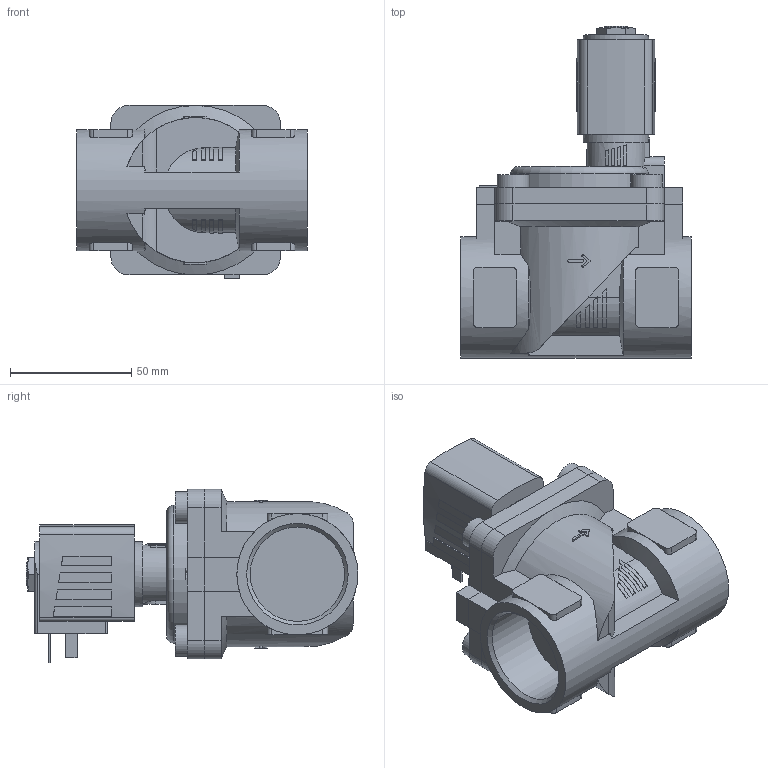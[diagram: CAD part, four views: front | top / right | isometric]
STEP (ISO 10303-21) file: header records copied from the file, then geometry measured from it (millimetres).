
FILE_DESCRIPTION(/* description */ ('STEP AP214'),/* implementation_level */ '2;1');
FILE_NAME(/* name */ '6281-248238-2_2-Way_Solenoid_Valve__Servo-assisted__General_Purpose',/* time_stamp */ '2024-08-27T15:58:04+02:00',/* author */ ('License CC BY-ND 4.0'),/* organization */ ('CADENAS'),/* preprocessor_version */ 'ST-DEVELOPER v19.3',/* originating_system */ 'PARTsolutions',/* authorisation */ ' ');
FILE_SCHEMA (('AUTOMOTIVE_DESIGN {1 0 10303 214 3 1 1}'));
Length unit declared in the file: millimetre
Products named in the file (4): 6281-248238-2/2-Way Solenoid Valve, Servo-assisted, General Purpose; 5281ev250VA2/2-Wege-Magnetventil mit Servomembran-Deckel   ; 6213-25G1_1/4VA-Gehaeuse-; AC10ex-5NA38-Plan-Coil
Assembly tree (3 placements, depth 2):
  6281-248238-2/2-Way Solenoid Valve, Servo-assisted, General Purpose
    5281ev250VA2/2-Wege-Magnetventil mit Servomembran-Deckel   
    6213-25G1_1/4VA-Gehaeuse-
    AC10ex-5NA38-Plan-Coil
Bounding box: 95 x 137 x 71.5 mm (x, y, z)
Volume: 324090.6 mm3; surface area: 60116.9 mm2
Topology: 3 solids, 3 shells, 345 faces, 888 edges, 586 vertices
Faces by surface type: plane 242, cylinder 85, cone 17, torus 1
Full cylindrical faces by diameter (mm): 2.013 x1, 9.74 x1, 13 x4, 27 x1, 38.952 x2, 50 x1
Entity records: 11760 total; most frequent: CARTESIAN_POINT 2076, DIRECTION 1738, ORIENTED_EDGE 1728, EDGE_CURVE 864, AXIS2_PLACEMENT_3D 600, VERTEX_POINT 578, LINE 538, VECTOR 538
